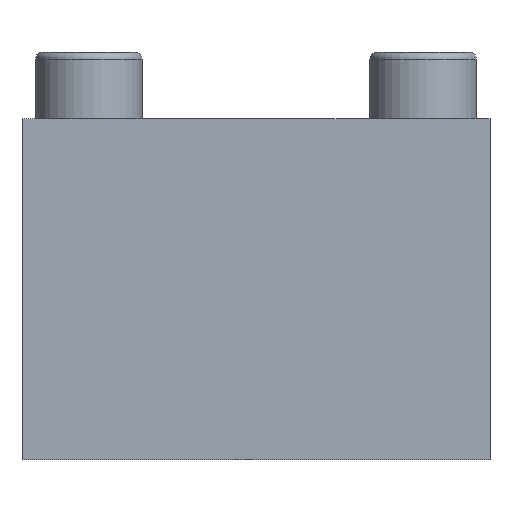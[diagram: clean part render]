
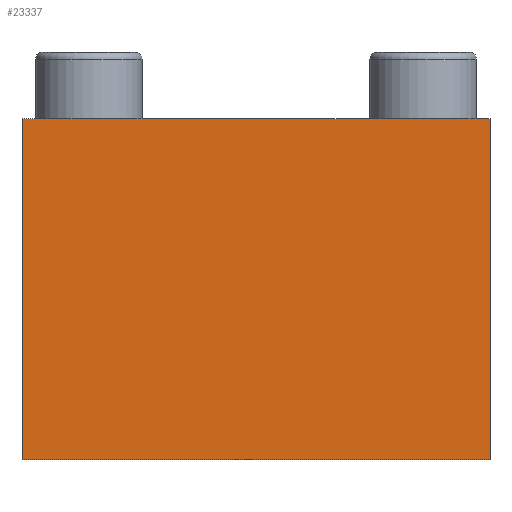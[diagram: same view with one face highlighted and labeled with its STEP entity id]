
A CAD part, front view. The second image highlights one B-rep face of the part: STEP entity #23337.
In plain terms, the highlighted planar face has unit normal (0, -1, 0).
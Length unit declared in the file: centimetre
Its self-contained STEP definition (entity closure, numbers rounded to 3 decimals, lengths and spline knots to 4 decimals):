
#1282=FACE_OUTER_BOUND('',#2626,.T.);
#2626=EDGE_LOOP('',(#15526,#15527,#15528,#15529));
#3922=LINE('',#30073,#6482);
#4590=LINE('',#32745,#7150);
#4593=LINE('',#32751,#7153);
#4594=LINE('',#32752,#7154);
#6482=VECTOR('',#25561,7.);
#7150=VECTOR('',#26269,5.1);
#7153=VECTOR('',#26274,5.1);
#7154=VECTOR('',#26275,7.);
#9042=VERTEX_POINT('',#30070);
#9043=VERTEX_POINT('',#30072);
#9987=VERTEX_POINT('',#32744);
#9989=VERTEX_POINT('',#32750);
#11262=EDGE_CURVE('',#9042,#9043,#3922,.T.);
#12207=EDGE_CURVE('',#9042,#9987,#4590,.T.);
#12210=EDGE_CURVE('',#9043,#9989,#4593,.T.);
#12211=EDGE_CURVE('',#9989,#9987,#4594,.T.);
#15526=ORIENTED_EDGE('',*,*,#12210,.F.);
#15527=ORIENTED_EDGE('',*,*,#11262,.F.);
#15528=ORIENTED_EDGE('',*,*,#12207,.T.);
#15529=ORIENTED_EDGE('',*,*,#12211,.F.);
#21205=PLANE('',#24602);
#23337=ADVANCED_FACE('',(#1282),#21205,.T.);
#24602=AXIS2_PLACEMENT_3D('',#32749,#26272,#26273);
#25561=DIRECTION('',(1.,0.,0.));
#26269=DIRECTION('',(0.,0.,-1.));
#26272=DIRECTION('center_axis',(0.,-1.,0.));
#26273=DIRECTION('ref_axis',(-1.,0.,0.));
#26274=DIRECTION('',(0.,0.,-1.));
#26275=DIRECTION('',(-1.,0.,0.));
#30070=CARTESIAN_POINT('',(-3.5,-12.5,4.1));
#30072=CARTESIAN_POINT('',(3.5,-12.5,4.1));
#30073=CARTESIAN_POINT('',(3.5,-12.5,4.1));
#32744=CARTESIAN_POINT('',(-3.5,-12.5,-1.));
#32745=CARTESIAN_POINT('',(-3.5,-12.5,0.));
#32749=CARTESIAN_POINT('Origin',(3.5,-12.5,3.1));
#32750=CARTESIAN_POINT('',(3.5,-12.5,-1.));
#32751=CARTESIAN_POINT('',(3.5,-12.5,0.));
#32752=CARTESIAN_POINT('',(3.5,-12.5,-1.));
